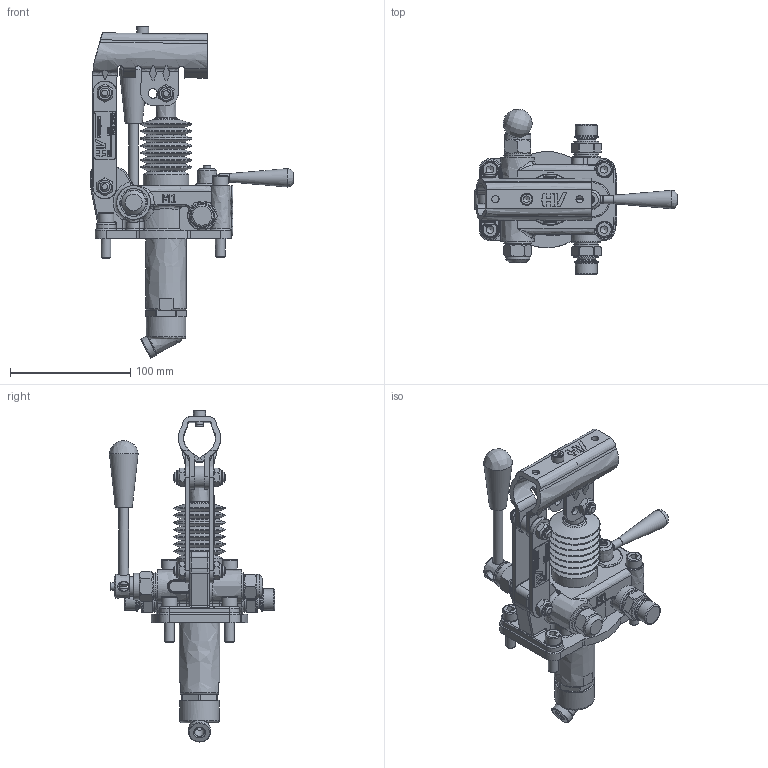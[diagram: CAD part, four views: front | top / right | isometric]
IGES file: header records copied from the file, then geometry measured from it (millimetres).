
Global section: file name: No Iges File Name specified; native system: Autodesk Inventor 2013; preprocessor: AutoDesk Inventor Iges Exporter R2013; author: christian.scardovi; date: 20240304.084703; units: millimetre
Bounding box: 169 x 137.47 x 276.08 mm (x, y, z)
Volume: 506431.1 mm3; surface area: 138119.7 mm2
Topology: 3 solids, 3 shells, 1615 faces, 4100 edges, 2602 vertices
Faces by surface type: bspline 1615
